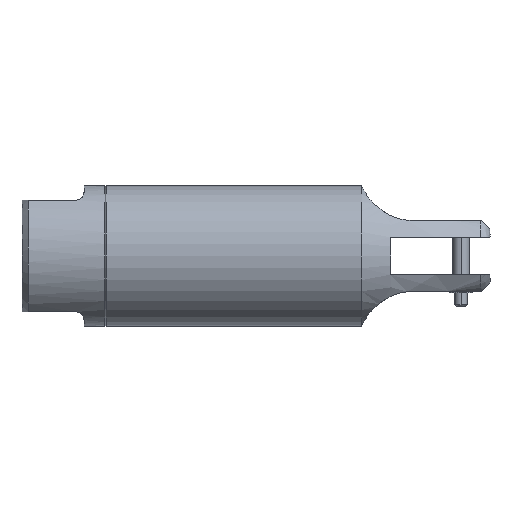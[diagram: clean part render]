
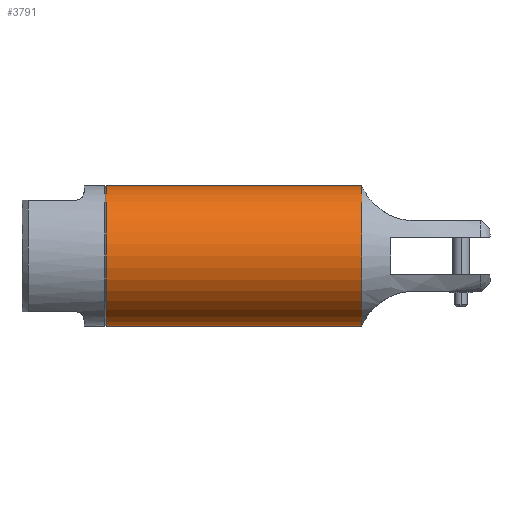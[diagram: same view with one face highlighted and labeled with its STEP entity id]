
A CAD part, front view. The second image highlights one B-rep face of the part: STEP entity #3791.
In plain terms, the highlighted cylindrical face has radius 17 mm (diameter 34 mm), a partial arc.
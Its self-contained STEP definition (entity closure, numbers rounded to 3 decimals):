
#9 = DIRECTION ( 'NONE',  ( 0., 0., 1. ) ) ;
#167 = DIRECTION ( 'NONE',  ( -1., 0., 0. ) ) ;
#293 = CARTESIAN_POINT ( 'NONE',  ( 37.782, -13.732, 0. ) ) ;
#381 = EDGE_CURVE ( 'NONE', #4615, #1202, #480, .T. ) ;
#405 = CARTESIAN_POINT ( 'NONE',  ( 37.782, -13.732, 0. ) ) ;
#480 = CIRCLE ( 'NONE', #758, 17. ) ;
#758 = AXIS2_PLACEMENT_3D ( 'NONE', #405, #2642, #9 ) ;
#774 = ORIENTED_EDGE ( 'NONE', *, *, #4567, .T. ) ;
#945 = CARTESIAN_POINT ( 'NONE',  ( 37.782, -13.732, -17. ) ) ;
#1135 = EDGE_CURVE ( 'NONE', #1202, #1700, #4220, .T. ) ;
#1143 = CIRCLE ( 'NONE', #4029, 17. ) ;
#1202 = VERTEX_POINT ( 'NONE', #3472 ) ;
#1370 = CARTESIAN_POINT ( 'NONE',  ( 37.782, -13.732, -17. ) ) ;
#1504 = VECTOR ( 'NONE', #1873, 1000. ) ;
#1700 = VERTEX_POINT ( 'NONE', #4474 ) ;
#1737 = ORIENTED_EDGE ( 'NONE', *, *, #1135, .F. ) ;
#1755 = DIRECTION ( 'NONE',  ( -1., 0., 0. ) ) ;
#1806 = DIRECTION ( 'NONE',  ( 0., 0., 1. ) ) ;
#1824 = CYLINDRICAL_SURFACE ( 'NONE', #2982, 17. ) ;
#1825 = DIRECTION ( 'NONE',  ( -1., 0., 0. ) ) ;
#1873 = DIRECTION ( 'NONE',  ( -1., 0., 0. ) ) ;
#2006 = LINE ( 'NONE', #945, #4105 ) ;
#2296 = ORIENTED_EDGE ( 'NONE', *, *, #4640, .T. ) ;
#2329 = CARTESIAN_POINT ( 'NONE',  ( 37.782, -13.732, 17. ) ) ;
#2642 = DIRECTION ( 'NONE',  ( -1., 0., 0. ) ) ;
#2982 = AXIS2_PLACEMENT_3D ( 'NONE', #293, #1825, #1806 ) ;
#3429 = CARTESIAN_POINT ( 'NONE',  ( -23.918, -13.732, -17. ) ) ;
#3463 = VERTEX_POINT ( 'NONE', #3429 ) ;
#3472 = CARTESIAN_POINT ( 'NONE',  ( 37.782, -13.732, 17. ) ) ;
#3591 = EDGE_LOOP ( 'NONE', ( #3867, #2296, #774, #1737 ) ) ;
#3791 = ADVANCED_FACE ( 'NONE', ( #4790 ), #1824, .F. ) ;
#3867 = ORIENTED_EDGE ( 'NONE', *, *, #381, .F. ) ;
#3979 = CARTESIAN_POINT ( 'NONE',  ( -23.918, -13.732, 0. ) ) ;
#4029 = AXIS2_PLACEMENT_3D ( 'NONE', #3979, #1755, #4344 ) ;
#4105 = VECTOR ( 'NONE', #167, 1000. ) ;
#4220 = LINE ( 'NONE', #2329, #1504 ) ;
#4344 = DIRECTION ( 'NONE',  ( 0., 0., 1. ) ) ;
#4474 = CARTESIAN_POINT ( 'NONE',  ( -23.918, -13.732, 17. ) ) ;
#4567 = EDGE_CURVE ( 'NONE', #3463, #1700, #1143, .T. ) ;
#4615 = VERTEX_POINT ( 'NONE', #1370 ) ;
#4640 = EDGE_CURVE ( 'NONE', #4615, #3463, #2006, .T. ) ;
#4790 = FACE_OUTER_BOUND ( 'NONE', #3591, .T. ) ;
